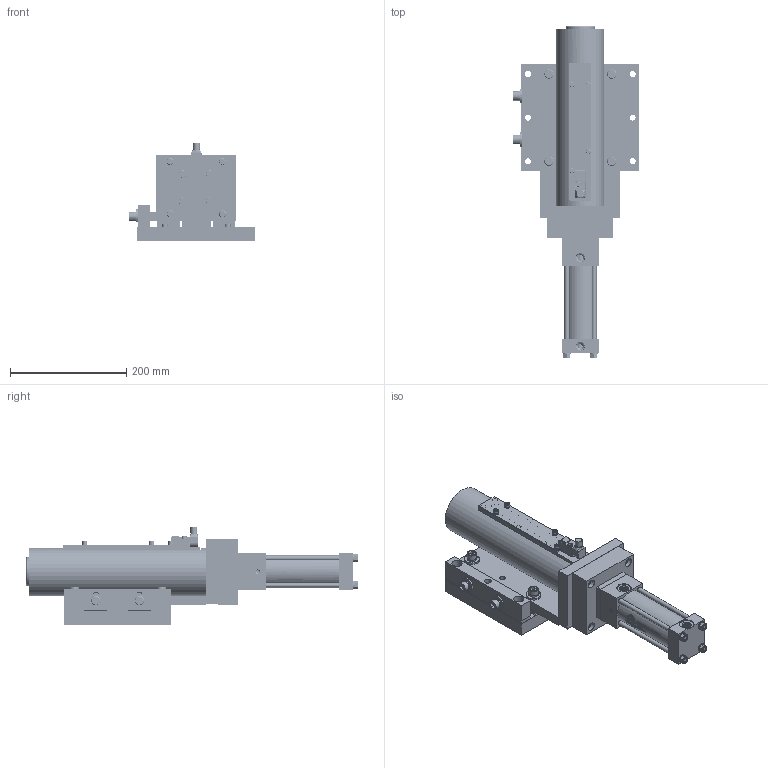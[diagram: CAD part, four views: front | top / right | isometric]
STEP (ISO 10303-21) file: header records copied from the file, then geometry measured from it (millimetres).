
FILE_DESCRIPTION(/* description */ (''),/* implementation_level */ '2;1');
FILE_NAME(/* name */ 'C:\TEMP\HP5 Bull Pins\HP5-H1M2VE000.stp',/* time_stamp */ '2016-01-20T07:11:41-05:00',/* author */ ('klabrecque'),/* organization */ (''),/* preprocessor_version */ 'ST-DEVELOPER v15.2',/* originating_system */ 'Autodesk Inventor 2014',/* authorisation */ '');
FILE_SCHEMA (('AUTOMOTIVE_DESIGN { 1 0 10303 214 3 1 1 }'));
Products named in the file (33): HP5E01; HP5E04; HP5E05; M10X1.5-50 SHCS; 12mmX40 DOWEL; NL10; DSC-D-M10; HP5E02; H4-M-B2.0F-3.82S1.00F4S11; HP5E06; NL8; 0.313-24X1.500 SHCS; M6X1-20 SHCS; NL6; HP5E13; HP5E14; HP5E10; HP5E08; HP5E09; HP5E15; HP5E11; M10X1.5-45 SHCS; End Weld; Side Weld; Side Weld mid; Side Weld2; M4X0.7-10 SHCS; M5X0.8-10 SHCS; M5X0.8-25 SHCS; NL5; WORLD-SWITCH-BODY_PF; 6950160; HP5-H1M2VE000
Bounding box: 218.1 x 571.19 x 169.27 mm (x, y, z)
Volume: 4360577 mm3; surface area: 957772.7 mm2
Topology: 184 solids, 184 shells, 4188 faces, 9760 edges, 6146 vertices
Faces by surface type: plane 1669, cylinder 1313, cone 656, bspline 540, sphere 6, torus 4
Full cylindrical faces by diameter (mm): 0.381 x3, 2 x2, 2.381 x3, 3.242 x8, 3.572 x3, 4 x7, 4.134 x14, 4.5 x6, 4.763 x3, 4.917 x4, 5 x5, 5.3 x1, 5.4 x4, 5.5 x4, 6 x2, 6.35 x2, 6.5 x2, 6.647 x1, 6.782 x8, 6.792 x230, 7 x6, 7.544 x1, 7.938 x237, 8 x6, 8.376 x8, 8.5 x9, 8.7 x4, 9 x4, 10 x13, 10.1 x6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
Entity records: 163967 total; most frequent: CARTESIAN_POINT 81637, DIRECTION 16011, ORIENTED_EDGE 15466, EDGE_CURVE 7733, AXIS2_PLACEMENT_3D 6390, VERTEX_POINT 5653, EDGE_LOOP 5640, ADVANCED_FACE 3870
